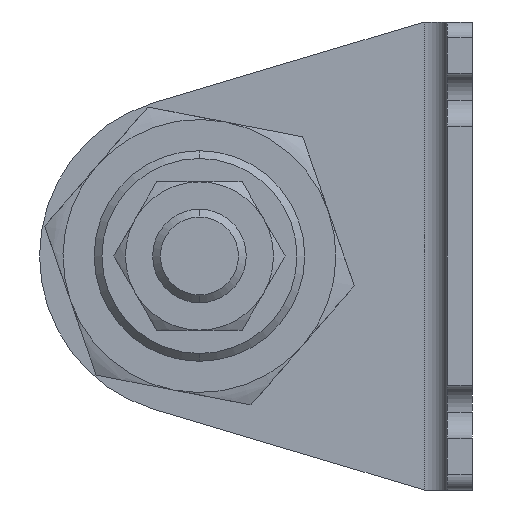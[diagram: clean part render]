
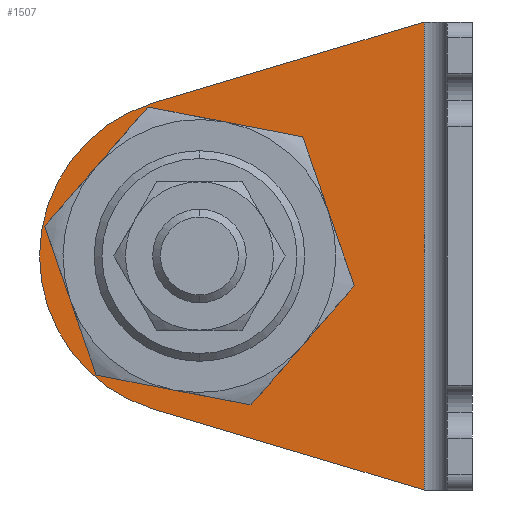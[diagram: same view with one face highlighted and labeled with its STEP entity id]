
A CAD part, left-side view. The second image highlights one B-rep face of the part: STEP entity #1507.
In plain terms, the highlighted planar face has unit normal (-1, 0, 0) as drawn and (1, 0, 0) by its records, which use the part's own axes.
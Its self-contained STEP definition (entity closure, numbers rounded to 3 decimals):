
#50 = CARTESIAN_POINT ( 'NONE',  ( 3.2, 35., -30. ) ) ;
#90 = VERTEX_POINT ( 'NONE', #1039 ) ;
#160 = VECTOR ( 'NONE', #2323, 1000. ) ;
#355 = CARTESIAN_POINT ( 'NONE',  ( 3.2, 6.2, -60. ) ) ;
#391 = AXIS2_PLACEMENT_3D ( 'NONE', #3408, #1402, #3734 ) ;
#430 = DIRECTION ( 'NONE',  ( 1., 0., 0. ) ) ;
#741 = LINE ( 'NONE', #3432, #2413 ) ;
#761 = CIRCLE ( 'NONE', #1606, 13.5 ) ;
#776 = ORIENTED_EDGE ( 'NONE', *, *, #1107, .T. ) ;
#952 = DIRECTION ( 'NONE',  ( 0., 0.958, -0.286 ) ) ;
#1021 = DIRECTION ( 'NONE',  ( 1., 0., 0. ) ) ;
#1039 = CARTESIAN_POINT ( 'NONE',  ( 3.2, 40.868, -49.642 ) ) ;
#1107 = EDGE_CURVE ( 'NONE', #2337, #3525, #1937, .T. ) ;
#1112 = VECTOR ( 'NONE', #952, 1000. ) ;
#1139 = CARTESIAN_POINT ( 'NONE',  ( 3.2, 6.2, 0. ) ) ;
#1206 = EDGE_LOOP ( 'NONE', ( #1271, #2790, #776, #3004, #2994 ) ) ;
#1226 = ORIENTED_EDGE ( 'NONE', *, *, #2017, .F. ) ;
#1271 = ORIENTED_EDGE ( 'NONE', *, *, #2034, .T. ) ;
#1315 = AXIS2_PLACEMENT_3D ( 'NONE', #2090, #430, #1738 ) ;
#1387 = DIRECTION ( 'NONE',  ( 0., 1., 0. ) ) ;
#1402 = DIRECTION ( 'NONE',  ( 1., 0., 0. ) ) ;
#1462 = DIRECTION ( 'NONE',  ( 1., 0., 0. ) ) ;
#1507 = ADVANCED_FACE ( 'NONE', ( #2253, #2671 ), #2089, .T. ) ;
#1606 = AXIS2_PLACEMENT_3D ( 'NONE', #50, #3999, #3689 ) ;
#1632 = CARTESIAN_POINT ( 'NONE',  ( 3.2, 55.5, -30. ) ) ;
#1646 = EDGE_CURVE ( 'NONE', #2656, #3662, #1734, .T. ) ;
#1734 = LINE ( 'NONE', #355, #160 ) ;
#1738 = DIRECTION ( 'NONE',  ( 0., 1., 0. ) ) ;
#1804 = CARTESIAN_POINT ( 'NONE',  ( 3.2, 6.2, -60. ) ) ;
#1937 = CIRCLE ( 'NONE', #1315, 20.5 ) ;
#1973 = ORIENTED_EDGE ( 'NONE', *, *, #3173, .F. ) ;
#2017 = EDGE_CURVE ( 'NONE', #2076, #2543, #2818, .T. ) ;
#2034 = EDGE_CURVE ( 'NONE', #3662, #90, #741, .T. ) ;
#2073 = CARTESIAN_POINT ( 'NONE',  ( 3.2, 40.868, -10.358 ) ) ;
#2076 = VERTEX_POINT ( 'NONE', #4147 ) ;
#2089 = PLANE ( 'NONE',  #391 ) ;
#2090 = CARTESIAN_POINT ( 'NONE',  ( 3.2, 35., -30. ) ) ;
#2222 = LINE ( 'NONE', #3268, #1112 ) ;
#2253 = FACE_BOUND ( 'NONE', #3644, .T. ) ;
#2323 = DIRECTION ( 'NONE',  ( 0., 0., -1. ) ) ;
#2337 = VERTEX_POINT ( 'NONE', #1632 ) ;
#2413 = VECTOR ( 'NONE', #3796, 1000. ) ;
#2543 = VERTEX_POINT ( 'NONE', #2742 ) ;
#2656 = VERTEX_POINT ( 'NONE', #1139 ) ;
#2671 = FACE_OUTER_BOUND ( 'NONE', #1206, .T. ) ;
#2699 = AXIS2_PLACEMENT_3D ( 'NONE', #3322, #1021, #1387 ) ;
#2742 = CARTESIAN_POINT ( 'NONE',  ( 3.2, 48.5, -30. ) ) ;
#2767 = AXIS2_PLACEMENT_3D ( 'NONE', #3508, #1462, #4119 ) ;
#2790 = ORIENTED_EDGE ( 'NONE', *, *, #4045, .T. ) ;
#2818 = CIRCLE ( 'NONE', #2767, 13.5 ) ;
#2994 = ORIENTED_EDGE ( 'NONE', *, *, #1646, .T. ) ;
#3004 = ORIENTED_EDGE ( 'NONE', *, *, #4040, .F. ) ;
#3173 = EDGE_CURVE ( 'NONE', #2543, #2076, #761, .T. ) ;
#3268 = CARTESIAN_POINT ( 'NONE',  ( 3.2, 19.903, -4.094 ) ) ;
#3322 = CARTESIAN_POINT ( 'NONE',  ( 3.2, 35., -30. ) ) ;
#3408 = CARTESIAN_POINT ( 'NONE',  ( 3.2, 3.2, -60. ) ) ;
#3432 = CARTESIAN_POINT ( 'NONE',  ( 3.2, 3.446, -60.823 ) ) ;
#3508 = CARTESIAN_POINT ( 'NONE',  ( 3.2, 35., -30. ) ) ;
#3525 = VERTEX_POINT ( 'NONE', #2073 ) ;
#3644 = EDGE_LOOP ( 'NONE', ( #1973, #1226 ) ) ;
#3662 = VERTEX_POINT ( 'NONE', #1804 ) ;
#3689 = DIRECTION ( 'NONE',  ( 0., 1., 0. ) ) ;
#3734 = DIRECTION ( 'NONE',  ( 0., 1., 0. ) ) ;
#3773 = CIRCLE ( 'NONE', #2699, 20.5 ) ;
#3796 = DIRECTION ( 'NONE',  ( 0., 0.958, 0.286 ) ) ;
#3999 = DIRECTION ( 'NONE',  ( 1., 0., 0. ) ) ;
#4040 = EDGE_CURVE ( 'NONE', #2656, #3525, #2222, .T. ) ;
#4045 = EDGE_CURVE ( 'NONE', #90, #2337, #3773, .T. ) ;
#4119 = DIRECTION ( 'NONE',  ( 0., 1., 0. ) ) ;
#4147 = CARTESIAN_POINT ( 'NONE',  ( 3.2, 21.5, -30. ) ) ;
